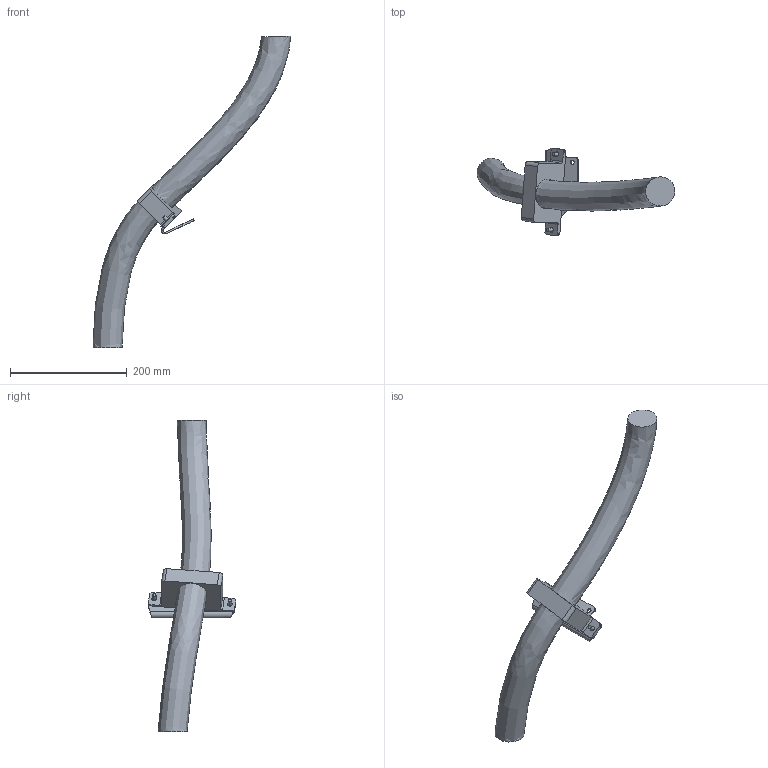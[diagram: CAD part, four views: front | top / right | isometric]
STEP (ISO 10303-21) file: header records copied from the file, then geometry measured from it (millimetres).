
FILE_DESCRIPTION (( 'STEP AP214' ), '1' );
FILE_NAME ('IRB77X0_All_OC_00_LINK01_CABLE.step', '2026-01-28T09:16:01', ( '' ), ( '' ), 'SwSTEP 2.0', 'SolidWorks 2024', '' );
FILE_SCHEMA (( 'AUTOMOTIVE_DESIGN' ));
Length unit declared in the file: millimetre
Products named in the file (1): IRB77X0_All_OC_00_LINK01_CABLE
Bounding box: 338.39 x 149.94 x 531.95 mm (x, y, z)
Volume: 1412574.4 mm3; surface area: 137976.6 mm2
Topology: 1 solids, 1 shells, 65 faces, 160 edges, 103 vertices
Faces by surface type: plane 40, cylinder 20, bspline 5
Full cylindrical faces by diameter (mm): 6 x2, 7 x2, 8 x2
Entity records: 3663 total; most frequent: CARTESIAN_POINT 1454, DIRECTION 298, ORIENTED_EDGE 292, EDGE_CURVE 146, AXIS2_PLACEMENT_3D 104, VERTEX_POINT 97, LINE 90, VECTOR 90
